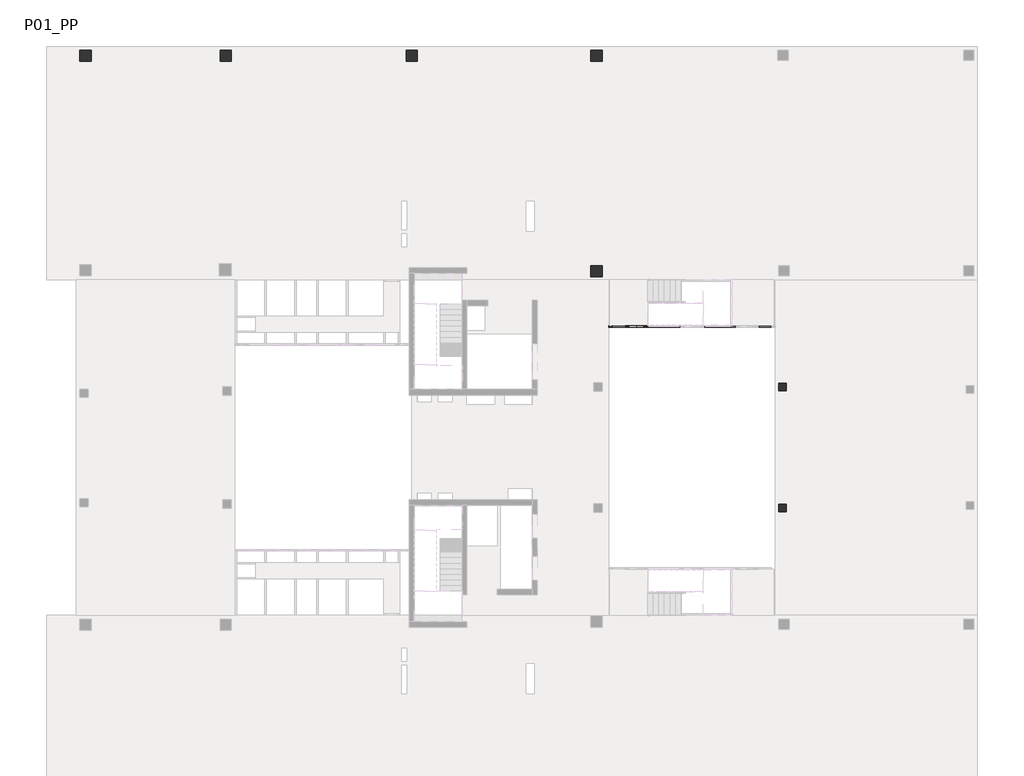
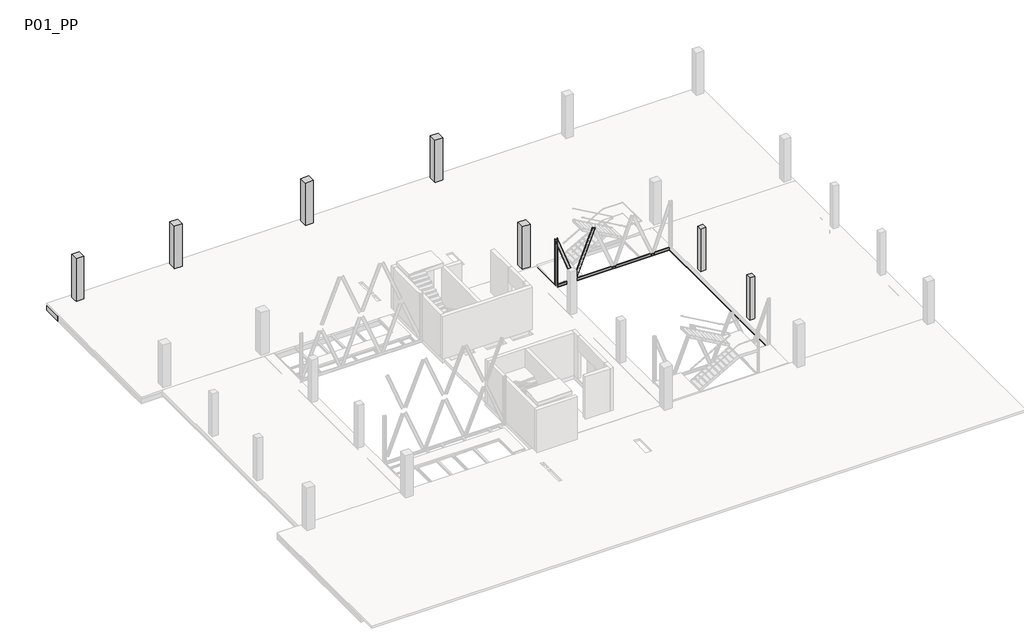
# One storey, part 5 of 8: 28 beams, 8 columns.
"""IFC4 building model written with IfcOpenShell, lengths in millimetres."""

from ifc_helpers import new_model, si_unit, frame, origin, place, context, project, spatial, polyline, circle_curve, ellipse_curve, outline, extrude, faceted_brep, transform, mapped, element, save
from ifc_brep_helpers import plane_surface, cylinder_surface, revolved_surface, advanced_brep
from components import ub_universal_beams_ipe_200x100_1ecb3d1d, ub_universal_beams_ipe_200x100_6905c83b, upn200x75_963e3bf5, upn200x75_de95b273, upn_200x75_fcc0ec56

model = new_model("IFC4")

# Units and contexts
model_context = context("Model", 3, world=origin())
ifc_project = project(units=[si_unit("LENGTHUNIT", "METRE", prefix="MILLI")], contexts=[model_context])

# Site, building, storey
site = spatial("IfcSite", under=ifc_project)
building = spatial("IfcBuilding", under=site)
storey = spatial("IfcBuildingStorey", under=building, Name="P01_PP", Elevation=11160.0)

# Beams
placement = place(None, origin())
element("IfcBeam", 1, ObjectType="M_Concrete-Rectangular Beam : 1500 x 550mm", at=placement, inside=storey, context=model_context, shape_type="AdvancedBrep", body=[
    advanced_brep(
    [(16958.7687297, 26089.4144807, 10610.0), (-33190.2931093, 26089.4144807, 10610.0), (-33190.2931093, 26089.4144807, 11010.0), (16958.7687297, 26089.4144807, 11010.0), (16958.7687297, 24589.4144807, 10610.0), (15458.7687297, 24589.4144807, 10610.0), (14183.7291255, 24589.4144807, 10610.0), (13783.7291255, 24589.4144807, 10610.0), (12517.0624618, 24589.4144807, 10610.0), (12117.0624618, 24589.4144807, 10610.0), (10850.3957976, 24589.4144807, 10610.0), (10450.3957976, 24589.4144807, 10610.0), (9183.7291339, 24589.4144807, 10610.0), (8783.7291339, 24589.4144807, 10610.0), (7517.0624701, 24589.4144807, 10610.0), (7117.0624701, 24589.4144807, 10610.0), (5850.3958055, 24589.4144807, 10610.0), (5450.3958055, 24589.4144807, 10610.0), (4183.7291418, 24589.4144807, 10610.0), (3783.7291418, 24589.4144807, 10610.0), (2517.0624776, 24589.4144807, 10610.0), (2117.0624776, 24589.4144807, 10610.0), (850.3958139, 24589.4144807, 10610.0), (450.3958139, 24589.4144807, 10610.0), (-816.2708502, 24589.4144807, 10610.0), (-1216.2708502, 24589.4144807, 10610.0), (-2482.9375136, 24589.4144807, 10610.0), (-2882.9375136, 24589.4144807, 10610.0), (-4149.6041777, 24589.4144807, 10610.0), (-4549.6041777, 24589.4144807, 10610.0), (-5816.2708415, 24589.4144807, 10610.0), (-6216.2708415, 24589.4144807, 10610.0), (-7482.9375051, 24589.4144807, 10610.0), (-7882.9375051, 24589.4144807, 10610.0), (-9149.6041702, 24589.4144807, 10610.0), (-9549.6041702, 24589.4144807, 10610.0), (-10816.2708336, 24589.4144807, 10610.0), (-11216.2708336, 24589.4144807, 10610.0), (-12482.9374977, 24589.4144807, 10610.0), (-12882.9374977, 24589.4144807, 10610.0), (-14149.604161, 24589.4144807, 10610.0), (-14549.604161, 24589.4144807, 10610.0), (-15816.2708252, 24589.4144807, 10610.0), (-16216.2708252, 24589.4144807, 10610.0), (-17482.9374898, 24589.4144807, 10610.0), (-17882.9374898, 24589.4144807, 10610.0), (-19149.6041539, 24589.4144807, 10610.0), (-19549.6041539, 24589.4144807, 10610.0), (-20816.2708168, 24589.4144807, 10610.0), (-21216.2708168, 24589.4144807, 10610.0), (-22482.9374805, 24589.4144807, 10610.0), (-22882.9374805, 24589.4144807, 10610.0), (-24149.6041453, 24589.4144807, 10610.0), (-24549.6041453, 24589.4144807, 10610.0), (-25816.2708089, 24589.4144807, 10610.0), (-26216.2708089, 24589.4144807, 10610.0), (-27482.9374731, 24589.4144807, 10610.0), (-27882.9374731, 24589.4144807, 10610.0), (-29149.6041367, 24589.4144807, 10610.0), (-29549.6041367, 24589.4144807, 10610.0), (-30816.2708024, 24589.4144807, 10610.0), (-31216.2708024, 24589.4144807, 10610.0), (-32490.2931093, 24589.4144807, 10610.0), (-33190.2931093, 24589.4144807, 10610.0), (-31391.1935443, 25889.4135722, 10610.0), (-31391.1935443, 25239.4135722, 10610.0), (-30741.1935443, 25239.4135722, 10610.0), (-30741.1935443, 25889.4135722, 10610.0), (-23891.1579551, 25889.4135995, 10610.0), (-23891.1579598, 25239.4135995, 10610.0), (-23241.1579598, 25239.4135948, 10610.0), (-23241.1579551, 25889.4135948, 10610.0), (-13840.3365029, 25889.4135969, 10610.0), (-13840.3365029, 25239.4135969, 10610.0), (-13190.3365029, 25239.4135969, 10610.0), (-13190.3365029, 25889.4135969, 10610.0), (-3916.6336913, 25889.4136866, 10610.0), (-3916.6336913, 25239.4136866, 10610.0), (-3266.6336913, 25239.4136866, 10610.0), (-3266.6336913, 25889.4136866, 10610.0), (6159.6816847, 25614.4137814, 10610.0), (6809.6816847, 25614.4137814, 10610.0), (16158.7686026, 25614.4137796, 10610.0), (16808.7686026, 25614.4137796, 10610.0), (16958.7687297, 24589.4144807, 11010.0), (15458.7687297, 24589.4144807, 11010.0), (14183.7291255, 24589.4144807, 11010.0), (13783.7291255, 24589.4144807, 11010.0), (12517.0624618, 24589.4144807, 11010.0), (12117.0624618, 24589.4144807, 11010.0), (10850.3957976, 24589.4144807, 11010.0), (10450.3957976, 24589.4144807, 11010.0), (9183.7291339, 24589.4144807, 11010.0), (8783.7291339, 24589.4144807, 11010.0), (7517.0624701, 24589.4144807, 11010.0), (7117.0624701, 24589.4144807, 11010.0), (5850.3958055, 24589.4144807, 11010.0), (5450.3958055, 24589.4144807, 11010.0), (4183.7291418, 24589.4144807, 11010.0), (3783.7291418, 24589.4144807, 11010.0), (2517.0624776, 24589.4144807, 11010.0), (2117.0624776, 24589.4144807, 11010.0), (850.3958139, 24589.4144807, 11010.0), (450.3958139, 24589.4144807, 11010.0), (-816.2708502, 24589.4144807, 11010.0), (-1216.2708502, 24589.4144807, 11010.0), (-2482.9375136, 24589.4144807, 11010.0), (-2882.9375136, 24589.4144807, 11010.0), (-4149.6041777, 24589.4144807, 11010.0), (-4549.6041777, 24589.4144807, 11010.0), (-5816.2708415, 24589.4144807, 11010.0), (-6216.2708415, 24589.4144807, 11010.0), (-7482.9375051, 24589.4144807, 11010.0), (-7882.9375051, 24589.4144807, 11010.0), (-9149.6041702, 24589.4144807, 11010.0), (-9549.6041702, 24589.4144807, 11010.0), (-10816.2708336, 24589.4144807, 11010.0), (-11216.2708336, 24589.4144807, 11010.0), (-12482.9374977, 24589.4144807, 11010.0), (-12882.9374977, 24589.4144807, 11010.0), (-14149.604161, 24589.4144807, 11010.0), (-14549.604161, 24589.4144807, 11010.0), (-15816.2708252, 24589.4144807, 11010.0), (-16216.2708252, 24589.4144807, 11010.0), (-17482.9374898, 24589.4144807, 11010.0), (-17882.9374898, 24589.4144807, 11010.0), (-19149.6041539, 24589.4144807, 11010.0), (-19549.6041539, 24589.4144807, 11010.0), (-20816.2708168, 24589.4144807, 11010.0), (-21216.2708168, 24589.4144807, 11010.0), (-22482.9374805, 24589.4144807, 11010.0), (-22882.9374805, 24589.4144807, 11010.0), (-24149.6041453, 24589.4144807, 11010.0), (-24549.6041453, 24589.4144807, 11010.0), (-25816.2708089, 24589.4144807, 11010.0), (-26216.2708089, 24589.4144807, 11010.0), (-27482.9374731, 24589.4144807, 11010.0), (-27882.9374731, 24589.4144807, 11010.0), (-29149.6041367, 24589.4144807, 11010.0), (-29549.6041367, 24589.4144807, 11010.0), (-30816.2708024, 24589.4144807, 11010.0), (-31216.2708024, 24589.4144807, 11010.0), (-32490.2931093, 24589.4144807, 11010.0), (-33190.2931093, 24589.4144807, 11010.0), (-31391.1935443, 25889.4135722, 10860.0), (-31391.1935443, 25239.4135722, 10860.0), (-30741.1935443, 25889.4135722, 10860.0), (-30741.1935443, 25239.4135722, 10860.0), (-23891.1579551, 25889.4135995, 10860.0), (-23891.1579598, 25239.4135995, 10860.0), (-23241.1579551, 25889.4135948, 10860.0), (-23241.1579598, 25239.4135948, 10860.0), (-13840.3365029, 25889.4135969, 10860.0), (-13840.3365029, 25239.4135969, 10860.0), (-13190.3365029, 25889.4135969, 10860.0), (-13190.3365029, 25239.4135969, 10860.0), (-3916.6336913, 25889.4136866, 10860.0), (-3916.6336913, 25239.4136866, 10860.0), (-3266.6336913, 25889.4136866, 10860.0), (-3266.6336913, 25239.4136866, 10860.0), (6159.6816847, 25614.4137814, 10860.0), (6809.6816847, 25614.4137814, 10860.0), (16158.7686026, 25614.4137796, 10860.0), (16808.7686026, 25614.4137796, 10860.0)],
    [
        (0, 1),
        (1, 2),
        (2, 3),
        (3, 0),
        (0, 4),
        (4, 5),
        (5, 6),
        (6, 7),
        (7, 8),
        (8, 9),
        (9, 10),
        (10, 11),
        (11, 12),
        (12, 13),
        (13, 14),
        (14, 15),
        (15, 16),
        (16, 17),
        (17, 18),
        (18, 19),
        (19, 20),
        (20, 21),
        (21, 22),
        (22, 23),
        (23, 24),
        (24, 25),
        (25, 26),
        (26, 27),
        (27, 28),
        (28, 29),
        (29, 30),
        (30, 31),
        (31, 32),
        (32, 33),
        (33, 34),
        (34, 35),
        (35, 36),
        (36, 37),
        (37, 38),
        (38, 39),
        (39, 40),
        (40, 41),
        (41, 42),
        (42, 43),
        (43, 44),
        (44, 45),
        (45, 46),
        (46, 47),
        (47, 48),
        (48, 49),
        (49, 50),
        (50, 51),
        (51, 52),
        (52, 53),
        (53, 54),
        (54, 55),
        (55, 56),
        (56, 57),
        (57, 58),
        (58, 59),
        (59, 60),
        (60, 61),
        (61, 62),
        (62, 63),
        (63, 1),
        (64, 65),
        (65, 66),
        (66, 67),
        (67, 64),
        (68, 69),
        (69, 70),
        (70, 71),
        (71, 68),
        (72, 73),
        (73, 74),
        (74, 75),
        (75, 72),
        (76, 77),
        (77, 78),
        (78, 79),
        (79, 76),
        (80, 81, circle_curve(frame((6484.6816847, 25614.4137814, 10610.0), z_axis=(0.0, 0.0, 1.0), x_axis=(-1.0, 0.0, 0.0)), 325.0)),
        (81, 80, circle_curve(frame((6484.6816847, 25614.4137814, 10610.0), z_axis=(0.0, 0.0, 1.0), x_axis=(-1.0, 0.0, 0.0)), 325.0)),
        (82, 83, circle_curve(frame((16483.7686026, 25614.4137796, 10610.0), z_axis=(0.0, 0.0, 1.0), x_axis=(-1.0, 0.0, 0.0)), 325.0)),
        (83, 82, circle_curve(frame((16483.7686026, 25614.4137796, 10610.0), z_axis=(0.0, 0.0, 1.0), x_axis=(-1.0, 0.0, 0.0)), 325.0)),
        (4, 84),
        (84, 85),
        (85, 86),
        (86, 87),
        (87, 88),
        (88, 89),
        (89, 90),
        (90, 91),
        (91, 92),
        (92, 93),
        (93, 94),
        (94, 95),
        (95, 96),
        (96, 97),
        (97, 98),
        (98, 99),
        (99, 100),
        (100, 101),
        (101, 102),
        (102, 103),
        (103, 104),
        (104, 105),
        (105, 106),
        (106, 107),
        (107, 108),
        (108, 109),
        (109, 110),
        (110, 111),
        (111, 112),
        (112, 113),
        (113, 114),
        (114, 115),
        (115, 116),
        (116, 117),
        (117, 118),
        (118, 119),
        (119, 120),
        (120, 121),
        (121, 122),
        (122, 123),
        (123, 124),
        (124, 125),
        (125, 126),
        (126, 127),
        (127, 128),
        (128, 129),
        (129, 130),
        (130, 131),
        (131, 132),
        (132, 133),
        (133, 134),
        (134, 135),
        (135, 136),
        (136, 137),
        (137, 138),
        (138, 139),
        (139, 140),
        (140, 141),
        (141, 142),
        (142, 143),
        (143, 63),
        (144, 145),
        (145, 65),
        (64, 144),
        (146, 144),
        (67, 146),
        (147, 146),
        (66, 147),
        (145, 147),
        (148, 149),
        (149, 69),
        (68, 148),
        (150, 148),
        (71, 150),
        (151, 150),
        (70, 151),
        (149, 151),
        (3, 84),
        (152, 153),
        (153, 73),
        (72, 152),
        (154, 152),
        (75, 154),
        (155, 154),
        (74, 155),
        (153, 155),
        (156, 157),
        (157, 77),
        (76, 156),
        (158, 156),
        (79, 158),
        (159, 158),
        (78, 159),
        (157, 159),
        (160, 161, circle_curve(frame((6484.6816847, 25614.4137814, 10860.0), z_axis=(0.0, 0.0, 1.0), x_axis=(-1.0, 0.0, 0.0)), 325.0)),
        (161, 81),
        (80, 160),
        (161, 160, circle_curve(frame((6484.6816847, 25614.4137814, 10860.0), z_axis=(0.0, 0.0, 1.0), x_axis=(-1.0, 0.0, 0.0)), 325.0)),
        (162, 163, circle_curve(frame((16483.7686026, 25614.4137796, 10860.0), z_axis=(0.0, 0.0, 1.0), x_axis=(-1.0, 0.0, 0.0)), 325.0)),
        (163, 83),
        (82, 162),
        (163, 162, circle_curve(frame((16483.7686026, 25614.4137796, 10860.0), z_axis=(0.0, 0.0, 1.0), x_axis=(-1.0, 0.0, 0.0)), 325.0)),
        (143, 2),
    ],
    [
        plane_surface(frame((-32477.5931093, 26089.4144807, 10885.0), z_axis=(0.0, 1.0, 0.0), x_axis=(0.0, 0.0, -1.0))),
        plane_surface(frame((-32477.5931093, 25339.4144807, 10610.0), z_axis=(0.0, 0.0, -1.0), x_axis=(0.0, -1.0, 0.0))),
        plane_surface(frame((-32477.5931093, 24589.4144807, 10885.0), z_axis=(0.0, -1.0, 0.0), x_axis=(0.0, 0.0, 1.0))),
        plane_surface(frame((-31391.1935443, 25889.4135722, 10860.0), z_axis=(1.0, -2.5511442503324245e-11, 0.0), x_axis=(0.0, 0.0, -1.0))),
        plane_surface(frame((-30741.1935443, 25889.4135722, 10860.0), z_axis=(-2.5511442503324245e-11, -1.0, 0.0), x_axis=(0.0, 0.0, -1.0))),
        plane_surface(frame((-30741.1935443, 25239.4135722, 10860.0), z_axis=(-1.0, 2.5511442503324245e-11, 0.0), x_axis=(0.0, 0.0, -1.0))),
        plane_surface(frame((-31391.1935443, 25239.4135722, 10860.0), z_axis=(2.5511442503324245e-11, 1.0, 0.0), x_axis=(0.0, 0.0, -1.0))),
        plane_surface(frame((-30741.1935443, 25239.4135722, 10860.0), z_axis=(0.0, 0.0, -1.0), x_axis=(1.0, -2.5511442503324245e-11, 0.0))),
        plane_surface(frame((-23891.1579551, 25889.4135995, 10860.0), z_axis=(1.0, -7.189467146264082e-09, 0.0), x_axis=(0.0, 0.0, -1.0))),
        plane_surface(frame((-23241.1579551, 25889.4135948, 10860.0), z_axis=(-7.189467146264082e-09, -1.0, 0.0), x_axis=(0.0, 0.0, -1.0))),
        plane_surface(frame((-23241.1579598, 25239.4135948, 10860.0), z_axis=(-1.0, 7.189467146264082e-09, 0.0), x_axis=(0.0, 0.0, -1.0))),
        plane_surface(frame((-23891.1579598, 25239.4135995, 10860.0), z_axis=(7.189467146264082e-09, 1.0, 0.0), x_axis=(0.0, 0.0, -1.0))),
        plane_surface(frame((-23241.1579598, 25239.4135948, 10860.0), z_axis=(0.0, 0.0, -1.0), x_axis=(1.0, -7.189467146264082e-09, 0.0))),
        plane_surface(frame((16958.7687297, 26113.3435642, 11160.0), z_axis=(1.0, 0.0, 0.0), x_axis=(0.0, -1.0, 0.0))),
        plane_surface(frame((-13840.3365029, 25889.4135969, 10860.0), z_axis=(1.0, 0.0, 0.0), x_axis=(0.0, 0.0, -1.0))),
        plane_surface(frame((-13190.3365029, 25889.4135969, 10860.0), z_axis=(0.0, -1.0, 0.0), x_axis=(0.0, 0.0, -1.0))),
        plane_surface(frame((-13190.3365029, 25239.4135969, 10860.0), z_axis=(-1.0, 0.0, 0.0), x_axis=(0.0, 0.0, -1.0))),
        plane_surface(frame((-13840.3365029, 25239.4135969, 10860.0), z_axis=(0.0, 1.0, 0.0), x_axis=(0.0, 0.0, -1.0))),
        plane_surface(frame((-13190.3365029, 25239.4135969, 10860.0), z_axis=(0.0, 0.0, -1.0), x_axis=(1.0, 0.0, 0.0))),
        plane_surface(frame((-3916.6336913, 25889.4136866, 10860.0), z_axis=(1.0, 0.0, 0.0), x_axis=(0.0, 0.0, -1.0))),
        plane_surface(frame((-3266.6336913, 25889.4136866, 10860.0), z_axis=(0.0, -1.0, 0.0), x_axis=(0.0, 0.0, -1.0))),
        plane_surface(frame((-3266.6336913, 25239.4136866, 10860.0), z_axis=(-1.0, 0.0, 0.0), x_axis=(0.0, 0.0, -1.0))),
        plane_surface(frame((-3916.6336913, 25239.4136866, 10860.0), z_axis=(0.0, 1.0, 0.0), x_axis=(0.0, 0.0, -1.0))),
        plane_surface(frame((-3266.6336913, 25239.4136866, 10860.0), z_axis=(0.0, 0.0, -1.0), x_axis=(1.0, 0.0, 0.0))),
        revolved_surface(polyline([(6159.6816847, 25614.4137814, 10860.0), (6159.6816847, 25614.4137814, 10610.0)]), (6484.6816847, 25614.4137814, 7100.0), (0.0, 0.0, 1.0)),
        plane_surface(frame((6159.6816847, 25614.4137814, 10860.0), z_axis=(0.0, 0.0, -1.0), x_axis=(0.0, -1.0, 0.0))),
        revolved_surface(polyline([(16158.768602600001, 25614.4137796, 10860.0), (16158.768602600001, 25614.4137796, 10610.0)]), (16483.7686026, 25614.4137796, 5480.0), (0.0, 0.0, 1.0)),
        plane_surface(frame((16158.7686026, 25614.4137796, 10860.0), z_axis=(0.0, 0.0, -1.0), x_axis=(0.0, -1.0, 0.0))),
        plane_surface(frame((-33190.2931093, 26113.3435642, 10610.0), z_axis=(-1.0, 0.0, 0.0), x_axis=(0.0, -1.0, 0.0))),
        plane_surface(frame((-33190.2931093, -4560.5861796, 11010.0), z_axis=(0.0, 0.0, 1.0), x_axis=(0.0, 1.0, 0.0))),
    ],
    [
        (0, [[1, 2, 3, 4]]),
        (1, [[5, 6, 7, 8, 9, 10, 11, 12, 13, 14, 15, 16, 17, 18, 19, 20, 21, 22, 23, 24, 25, 26, 27, 28, 29, 30, 31, 32, 33, 34, 35, 36, 37, 38, 39, 40, 41, 42, 43, 44, 45, 46, 47, 48, 49, 50, 51, 52, 53, 54, 55, 56, 57, 58, 59, 60, 61, 62, 63, 64, 65, -1], [66, 67, 68, 69], [70, 71, 72, 73], [74, 75, 76, 77], [78, 79, 80, 81], [82, 83], [84, 85]]),
        (2, [[-64, -63, -62, -61, -60, -59, -58, -57, -56, -55, -54, -53, -52, -51, -50, -49, -48, -47, -46, -45, -44, -43, -42, -41, -40, -39, -38, -37, -36, -35, -34, -33, -32, -31, -30, -29, -28, -27, -26, -25, -24, -23, -22, -21, -20, -19, -18, -17, -16, -15, -14, -13, -12, -11, -10, -9, -8, -7, -6, 86, 87, 88, 89, 90, 91, 92, 93, 94, 95, 96, 97, 98, 99, 100, 101, 102, 103, 104, 105, 106, 107, 108, 109, 110, 111, 112, 113, 114, 115, 116, 117, 118, 119, 120, 121, 122, 123, 124, 125, 126, 127, 128, 129, 130, 131, 132, 133, 134, 135, 136, 137, 138, 139, 140, 141, 142, 143, 144, 145, 146]]),
        (3, [[147, 148, -66, 149]]),
        (4, [[150, -149, -69, 151]]),
        (5, [[152, -151, -68, 153]]),
        (6, [[154, -153, -67, -148]]),
        (7, [[-147, -150, -152, -154]]),
        (8, [[155, 156, -70, 157]]),
        (9, [[158, -157, -73, 159]]),
        (10, [[160, -159, -72, 161]]),
        (11, [[162, -161, -71, -156]]),
        (12, [[-155, -158, -160, -162]]),
        (13, [[-5, -4, 163, -86]]),
        (14, [[164, 165, -74, 166]]),
        (15, [[167, -166, -77, 168]]),
        (16, [[169, -168, -76, 170]]),
        (17, [[171, -170, -75, -165]]),
        (18, [[-164, -167, -169, -171]]),
        (19, [[172, 173, -78, 174]]),
        (20, [[175, -174, -81, 176]]),
        (21, [[177, -176, -80, 178]]),
        (22, [[179, -178, -79, -173]]),
        (23, [[-172, -175, -177, -179]]),
        (24, [[180, 181, -82, 182]]),
        (24, [[183, -182, -83, -181]]),
        (25, [[-180, -183]]),
        (26, [[184, 185, -84, 186]]),
        (26, [[187, -186, -85, -185]]),
        (27, [[-184, -187]]),
        (28, [[-65, -146, 188, -2]]),
        (29, [[-3, -188, -145, -144, -143, -142, -141, -140, -139, -138, -137, -136, -135, -134, -133, -132, -131, -130, -129, -128, -127, -126, -125, -124, -123, -122, -121, -120, -119, -118, -117, -116, -115, -114, -113, -112, -111, -110, -109, -108, -107, -106, -105, -104, -103, -102, -101, -100, -99, -98, -97, -96, -95, -94, -93, -92, -91, -90, -89, -88, -87, -163]]),
    ],
),
])
element("IfcBeam", 2, ObjectType="M_Concrete-Rectangular Beam : 400 x 550mm", at=placement, inside=storey, context=model_context, shape_type="SweptSolid", body=[
    extrude(outline(polyline([(-31216.2708024, 24589.4144807), (-30816.2708024, 24589.4144807), (-30816.2708024, 15039.4134441), (-31216.2708024, 15039.4134441), (-31216.2708024, 24589.4144807)])), frame((0.0, 0.0, 10610.0), z_axis=(0.0, 0.0, 1.0), x_axis=(1.0, 0.0, 0.0)), (0.0, 0.0, 1.0), 400.0),
])
element("IfcBeam", 3, ObjectType="M_Concrete-Rectangular Beam : 400 x 550mm", at=placement, inside=storey, context=model_context, shape_type="SweptSolid", body=[
    extrude(outline(polyline([(-29549.6041367, 24589.4144807), (-29149.6041367, 24589.4144807), (-29149.6041367, 15039.4134441), (-29549.6041367, 15039.4134441), (-29549.6041367, 24589.4144807)])), frame((0.0, 0.0, 10610.0), z_axis=(0.0, 0.0, 1.0), x_axis=(1.0, 0.0, 0.0)), (0.0, 0.0, 1.0), 400.0),
])
element("IfcBeam", 4, ObjectType="M_Concrete-Rectangular Beam : 400 x 550mm", at=placement, inside=storey, context=model_context, shape_type="SweptSolid", body=[
    extrude(outline(polyline([(-27882.9374731, 24589.4144807), (-27482.9374731, 24589.4144807), (-27482.9374731, 15039.4134441), (-27882.9374731, 15039.4134441), (-27882.9374731, 24589.4144807)])), frame((0.0, 0.0, 10610.0), z_axis=(0.0, 0.0, 1.0), x_axis=(1.0, 0.0, 0.0)), (0.0, 0.0, 1.0), 400.0),
])
element("IfcBeam", 5, ObjectType="M_Concrete-Rectangular Beam : 400 x 550mm", at=placement, inside=storey, context=model_context, shape_type="SweptSolid", body=[
    extrude(outline(polyline([(-26216.2708089, 24589.4144807), (-25816.2708089, 24589.4144807), (-25816.2708089, 15039.4134441), (-26216.2708089, 15039.4134441), (-26216.2708089, 24589.4144807)])), frame((0.0, 0.0, 10610.0), z_axis=(0.0, 0.0, 1.0), x_axis=(1.0, 0.0, 0.0)), (0.0, 0.0, 1.0), 400.0),
])
element("IfcBeam", 6, ObjectType="M_Concrete-Rectangular Beam : 400 x 550mm", at=placement, inside=storey, context=model_context, shape_type="SweptSolid", body=[
    extrude(outline(polyline([(-24549.6041453, 24589.4144807), (-24149.6041453, 24589.4144807), (-24149.6041453, 15039.4134441), (-24549.6041453, 15039.4134441), (-24549.6041453, 24589.4144807)])), frame((0.0, 0.0, 10610.0), z_axis=(0.0, 0.0, 1.0), x_axis=(1.0, 0.0, 0.0)), (0.0, 0.0, 1.0), 400.0),
])
element("IfcBeam", 7, ObjectType="M_Concrete-Rectangular Beam : 400 x 550mm", at=placement, inside=storey, context=model_context, shape_type="SweptSolid", body=[
    extrude(outline(polyline([(-22882.9374805, 24589.4144807), (-22482.9374805, 24589.4144807), (-22482.9374805, 15039.4134441), (-22882.9374805, 15039.4134441), (-22882.9374805, 24589.4144807)])), frame((0.0, 0.0, 10610.0), z_axis=(0.0, 0.0, 1.0), x_axis=(1.0, 0.0, 0.0)), (0.0, 0.0, 1.0), 400.0),
])
element("IfcBeam", 8, ObjectType="M_Concrete-Rectangular Beam : 400 x 550mm", at=placement, inside=storey, context=model_context, shape_type="SweptSolid", body=[
    extrude(outline(polyline([(-21216.2708168, 24589.4144807), (-20816.2708168, 24589.4144807), (-20816.2708168, 15039.4134441), (-21216.2708168, 15039.4134441), (-21216.2708168, 24589.4144807)])), frame((0.0, 0.0, 10610.0), z_axis=(0.0, 0.0, 1.0), x_axis=(1.0, 0.0, 0.0)), (0.0, 0.0, 1.0), 400.0),
])
element("IfcBeam", 9, ObjectType="M_Concrete-Rectangular Beam : 400 x 550mm", at=placement, inside=storey, context=model_context, shape_type="SweptSolid", body=[
    extrude(outline(polyline([(-19549.6041539, 24589.4144807), (-19149.6041539, 24589.4144807), (-19149.6041539, 15039.4134441), (-19549.6041539, 15039.4134441), (-19549.6041539, 24589.4144807)])), frame((0.0, 0.0, 10610.0), z_axis=(0.0, 0.0, 1.0), x_axis=(1.0, 0.0, 0.0)), (0.0, 0.0, 1.0), 400.0),
])
element("IfcBeam", 10, ObjectType="M_Concrete-Rectangular Beam : 400 x 550mm", at=placement, inside=storey, context=model_context, shape_type="SweptSolid", body=[
    extrude(outline(polyline([(-17882.9374898, 24589.4144807), (-17482.9374898, 24589.4144807), (-17482.9374898, 15039.4134441), (-17882.9374898, 15039.4134441), (-17882.9374898, 24589.4144807)])), frame((0.0, 0.0, 10610.0), z_axis=(0.0, 0.0, 1.0), x_axis=(1.0, 0.0, 0.0)), (0.0, 0.0, 1.0), 400.0),
])
element("IfcBeam", 11, ObjectType="M_Concrete-Rectangular Beam : 400 x 550mm", at=placement, inside=storey, context=model_context, shape_type="SweptSolid", body=[
    extrude(outline(polyline([(-16216.2708252, 24589.4144807), (-15816.2708252, 24589.4144807), (-15816.2708252, 15039.4134441), (-16216.2708252, 15039.4134441), (-16216.2708252, 24589.4144807)])), frame((0.0, 0.0, 10610.0), z_axis=(0.0, 0.0, 1.0), x_axis=(1.0, 0.0, 0.0)), (0.0, 0.0, 1.0), 400.0),
])
element("IfcBeam", 12, ObjectType="M_Concrete-Rectangular Beam : 400 x 550mm", at=placement, inside=storey, context=model_context, shape_type="SweptSolid", body=[
    extrude(outline(polyline([(-14549.604161, 24589.4144807), (-14149.604161, 24589.4144807), (-14149.604161, 15039.4134441), (-14549.604161, 15039.4134441), (-14549.604161, 24589.4144807)])), frame((0.0, 0.0, 10610.0), z_axis=(0.0, 0.0, 1.0), x_axis=(1.0, 0.0, 0.0)), (0.0, 0.0, 1.0), 400.0),
])
element("IfcBeam", 13, ObjectType="M_Concrete-Rectangular Beam : 400 x 550mm", at=placement, inside=storey, context=model_context, shape_type="SweptSolid", body=[
    extrude(outline(polyline([(-12882.9374977, 24589.4144807), (-12482.9374977, 24589.4144807), (-12482.9374977, 15039.4134441), (-12882.9374977, 15039.4134441), (-12882.9374977, 24589.4144807)])), frame((0.0, 0.0, 10610.0), z_axis=(0.0, 0.0, 1.0), x_axis=(1.0, 0.0, 0.0)), (0.0, 0.0, 1.0), 400.0),
])
element("IfcBeam", 14, ObjectType="M_Concrete-Rectangular Beam : 400 x 550mm", at=placement, inside=storey, context=model_context, shape_type="SweptSolid", body=[
    extrude(outline(polyline([(-11216.2708336, 24589.4144807), (-10816.2708336, 24589.4144807), (-10816.2708336, 15039.4134441), (-11216.2708336, 15039.4134441), (-11216.2708336, 24589.4144807)])), frame((0.0, 0.0, 10610.0), z_axis=(0.0, 0.0, 1.0), x_axis=(1.0, 0.0, 0.0)), (0.0, 0.0, 1.0), 400.0),
])
element("IfcBeam", 15, ObjectType="M_Concrete-Rectangular Beam : 400 x 550mm", at=placement, inside=storey, context=model_context, shape_type="SweptSolid", body=[
    extrude(outline(polyline([(-9549.6041702, 24589.4144807), (-9149.6041702, 24589.4144807), (-9149.6041702, 15039.4134441), (-9549.6041702, 15039.4134441), (-9549.6041702, 24589.4144807)])), frame((0.0, 0.0, 10610.0), z_axis=(0.0, 0.0, 1.0), x_axis=(1.0, 0.0, 0.0)), (0.0, 0.0, 1.0), 400.0),
])
element("IfcBeam", 16, ObjectType="M_Concrete-Rectangular Beam : 400 x 550mm", at=placement, inside=storey, context=model_context, shape_type="SweptSolid", body=[
    extrude(outline(polyline([(-7882.9375051, 24589.4144807), (-7482.9375051, 24589.4144807), (-7482.9375051, 15039.4134441), (-7882.9375051, 15039.4134441), (-7882.9375051, 24589.4144807)])), frame((0.0, 0.0, 10610.0), z_axis=(0.0, 0.0, 1.0), x_axis=(1.0, 0.0, 0.0)), (0.0, 0.0, 1.0), 400.0),
])
element("IfcBeam", 17, ObjectType="M_Concrete-Rectangular Beam : 400 x 550mm", at=placement, inside=storey, context=model_context, shape_type="SweptSolid", body=[
    extrude(outline(polyline([(-6216.2708415, 24589.4144807), (-5816.2708415, 24589.4144807), (-5816.2708415, 15039.4134441), (-6216.2708415, 15039.4134441), (-6216.2708415, 24589.4144807)])), frame((0.0, 0.0, 10610.0), z_axis=(0.0, 0.0, 1.0), x_axis=(1.0, 0.0, 0.0)), (0.0, 0.0, 1.0), 400.0),
])
element("IfcBeam", 18, ObjectType="M_Concrete-Rectangular Beam : 400 x 550mm", at=placement, inside=storey, context=model_context, shape_type="SweptSolid", body=[
    extrude(outline(polyline([(-4549.6041777, 24589.4144807), (-4149.6041777, 24589.4144807), (-4149.6041777, 15039.4134441), (-4549.6041777, 15039.4134441), (-4549.6041777, 24589.4144807)])), frame((0.0, 0.0, 10610.0), z_axis=(0.0, 0.0, 1.0), x_axis=(1.0, 0.0, 0.0)), (0.0, 0.0, 1.0), 400.0),
])
element("IfcBeam", 19, ObjectType="M_Concrete-Rectangular Beam : 400 x 550mm", at=placement, inside=storey, context=model_context, shape_type="SweptSolid", body=[
    extrude(outline(polyline([(-2882.9375136, 24589.4144807), (-2482.9375136, 24589.4144807), (-2482.9375136, 15039.4134441), (-2882.9375136, 15039.4134441), (-2882.9375136, 24589.4144807)])), frame((0.0, 0.0, 10610.0), z_axis=(0.0, 0.0, 1.0), x_axis=(1.0, 0.0, 0.0)), (0.0, 0.0, 1.0), 400.0),
])
element("IfcBeam", 20, ObjectType="M_Concrete-Rectangular Beam : 400 x 550mm", at=placement, inside=storey, context=model_context, shape_type="SweptSolid", body=[
    extrude(outline(polyline([(-1216.2708502, 24589.4144807), (-816.2708502, 24589.4144807), (-816.2708502, 15039.4134441), (-1216.2708502, 15039.4134441), (-1216.2708502, 24589.4144807)])), frame((0.0, 0.0, 10610.0), z_axis=(0.0, 0.0, 1.0), x_axis=(1.0, 0.0, 0.0)), (0.0, 0.0, 1.0), 400.0),
])
element("IfcBeam", 21, ObjectType="M_Concrete-Rectangular Beam : 700 x 500mm", at=placement, inside=storey, context=model_context, shape_type="AdvancedBrep", body=[
    advanced_brep(
    [(6758.8308521, 13539.4134441, 11160.0), (6058.8308521, 13539.4134441, 11160.0), (6058.8308521, -4560.5861501, 11160.0), (6758.8308521, -4560.5861501, 11160.0), (6058.8308521, 13539.4134441, 11010.0), (6058.8308521, 13539.4134441, 10660.0), (6058.8308521, -4560.5861501, 10660.0), (6058.8308521, -4560.5861501, 11010.0), (6758.8308521, 13539.4134441, 10660.0), (6758.8308521, 1239.3381298, 10660.0), (6705.9167909, 1409.5566812, 10660.0), (6211.7449325, 1069.2712505, 10660.0), (6758.8308521, -4560.5861501, 10660.0), (6758.8308521, -4560.5861501, 11010.0), (6758.8308521, 13539.4134441, 11010.0), (6705.9167909, 1409.5566812, 10860.0), (6211.7449325, 1069.2712505, 10860.0)],
    [
        (0, 1),
        (1, 2),
        (2, 3),
        (3, 0),
        (1, 4),
        (4, 5),
        (5, 6),
        (6, 7),
        (7, 2),
        (5, 8),
        (8, 9),
        (9, 10, circle_curve(frame((6458.8308617, 1239.4139658, 10660.0), z_axis=(0.0, 0.0, 1.0), x_axis=(0.8236197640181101, 0.5671423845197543, 0.0)), 300.0)),
        (10, 11, circle_curve(frame((6458.8308617, 1239.4139658, 10660.0), z_axis=(0.0, 0.0, 1.0), x_axis=(0.8236197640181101, 0.5671423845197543, 0.0)), 300.0)),
        (11, 9, circle_curve(frame((6458.8308617, 1239.4139658, 10660.0), z_axis=(0.0, 0.0, 1.0), x_axis=(0.8236197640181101, 0.5671423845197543, 0.0)), 300.0)),
        (9, 12),
        (12, 6),
        (3, 13),
        (13, 12),
        (8, 14),
        (14, 0),
        (15, 16, circle_curve(frame((6458.8308617, 1239.4139658, 10860.0), z_axis=(0.0, 0.0, 1.0), x_axis=(0.8236197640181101, 0.5671423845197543, 0.0)), 300.0)),
        (16, 11),
        (10, 15),
        (16, 15, circle_curve(frame((6458.8308617, 1239.4139658, 10860.0), z_axis=(0.0, 0.0, 1.0), x_axis=(0.8236197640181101, 0.5671423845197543, 0.0)), 300.0)),
    ],
    [
        plane_surface(frame((6758.8308521, -4547.8861498, 11160.0), z_axis=(0.0, 0.0, 1.0), x_axis=(0.0, 1.0, 0.0))),
        plane_surface(frame((6058.8308521, -4547.8861498, 11160.0), z_axis=(-1.0, 0.0, 0.0), x_axis=(0.0, 1.0, 0.0))),
        plane_surface(frame((6058.8308521, -4547.8861498, 10660.0), z_axis=(0.0, 0.0, -1.0), x_axis=(0.0, 1.0, 0.0))),
        plane_surface(frame((6758.8308521, -4547.8861498, 10660.0), z_axis=(1.0, 0.0, 0.0), x_axis=(0.0, 1.0, 0.0))),
        plane_surface(frame((-32477.5931093, 13539.4134441, 10885.0), z_axis=(0.0, 1.0, 0.0), x_axis=(0.0, 0.0, 1.0))),
        plane_surface(frame((-32477.5931093, -4560.5861501, 10885.0), z_axis=(0.0, -1.0, 0.0), x_axis=(0.0, 0.0, 1.0))),
        revolved_surface(polyline([(6705.916790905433, 1409.5566811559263, 10860.0), (6705.916790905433, 1409.5566811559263, 10660.0)]), (6458.8308617, 1239.4139658, 7100.0), (0.0, 0.0, 1.0)),
        plane_surface(frame((6705.9167909, 1409.5566812, 10860.0), z_axis=(0.0, 0.0, -1.0000000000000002), x_axis=(-0.5671423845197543, 0.8236197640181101, 0.0))),
    ],
    [
        (0, [[1, 2, 3, 4]]),
        (1, [[-2, 5, 6, 7, 8, 9]]),
        (2, [[10, 11, 12, 13, 14, 15, 16, -7]]),
        (3, [[-4, 17, 18, -15, -11, 19, 20]]),
        (4, [[-1, -20, -19, -10, -6, -5]]),
        (5, [[-3, -9, -8, -16, -18, -17]]),
        (6, [[21, 22, -13, 23]]),
        (6, [[24, -23, -12, -14, -22]]),
        (7, [[-21, -24]]),
    ],
),
])
ub_universal_beams_ipe_200x100_shape = ub_universal_beams_ipe_200x100_1ecb3d1d(model_context)
element("IfcBeam", 22, ObjectType="UB-Universal Beams : IPE 200x100", at=placement, inside=storey, context=model_context, shape_type="MappedRepresentation", body=[
    mapped(ub_universal_beams_ipe_200x100_shape, transform((-2811.4958562, 12672.0188251, 11060.0), x_axis=(0.0, -1.0, 0.0), y_axis=(1.0, 0.0, 0.0), z_axis=(0.0, 0.0, 1.0))),
])
ub_universal_beams_ipe_200x100_2_shape = ub_universal_beams_ipe_200x100_6905c83b(model_context)
element("IfcBeam", 23, ObjectType="UB-Universal Beams : IPE 200x100", at=placement, inside=storey, context=model_context, shape_type="MappedRepresentation", body=[
    mapped(ub_universal_beams_ipe_200x100_2_shape, transform((-861.4958562, 12677.4822857, 11060.0), x_axis=(0.0, -1.0, 0.0), y_axis=(1.0, 0.0, 0.0), z_axis=(0.0, 0.0, 1.0))),
])
element("IfcBeam", 24, ObjectType="UB-Universal Beams : IPE 200x100", at=placement, inside=storey, context=model_context, shape_type="MappedRepresentation", body=[
    mapped(ub_universal_beams_ipe_200x100_2_shape, transform((-1511.4958562, 12677.4822857, 11060.0), x_axis=(0.0, -1.0, 0.0), y_axis=(1.0, 0.0, 0.0), z_axis=(0.0, 0.0, 1.0))),
])
element("IfcBeam", 25, ObjectType="UB-Universal Beams : IPE 200x100", at=placement, inside=storey, context=model_context, shape_type="MappedRepresentation", body=[
    mapped(ub_universal_beams_ipe_200x100_2_shape, transform((-2161.4958562, 12677.4822857, 11060.0), x_axis=(0.0, -1.0, 0.0), y_axis=(1.0, 0.0, 0.0), z_axis=(0.0, 0.0, 1.0))),
])
element("IfcBeam", 26, ObjectType="M_MC Shapes : UPN200x75", at=placement, inside=storey, context=model_context, shape_type="AdvancedBrep", body=[
    advanced_brep(
    [(-2858.8997749, 10979.623967, 14677.023118), (-2671.2434518, 10979.6239606, 14746.197567), (-2671.2434492, 11054.6239606, 14746.197567), (-2672.1579691, 11054.6239606, 14745.8604539), (-2675.8137544, 11051.323338, 14744.5128471), (-2685.2823086, 10990.7752065, 14741.0225204), (-2692.5938791, 10984.1739613, 14738.327307), (-2837.5493473, 10984.1739663, 14684.8933781), (-2844.8609174, 10990.775212, 14682.1981646), (-2854.3294674, 11051.3233441, 14678.7078379), (-2857.9852525, 11054.623967, 14677.3602312), (-2858.8997724, 11054.623967, 14677.023118), (-1312.3121379, 10979.623914, 11059.6910949), (-1527.1751909, 10979.6239214, 11064.3230146), (-1312.3121353, 11054.623914, 11059.6910948), (-1313.3592439, 11054.6239141, 11059.7136679), (-1317.545051, 11051.3232915, 11059.8039036), (-1328.3863719, 10990.7751601, 11060.0376159), (-1336.7579862, 10984.1739149, 11060.2180873), (-1502.7293423, 10984.1739206, 11063.7960222), (-1511.1009562, 10990.7751663, 11063.9764936), (-1521.9422728, 11051.3232985, 11064.2102058), (-1526.1280798, 11054.6239214, 11064.3004415), (-1527.1751883, 11054.6239214, 11064.3230146)],
    [
        (0, 1),
        (1, 2),
        (2, 3),
        (3, 4, circle_curve(frame((-2672.1579692, 11050.6739606, 14745.8604539), z_axis=(-0.3458722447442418, 1.1846647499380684e-08, 0.9382816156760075), x_axis=(3.4251509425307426e-08, 0.9999999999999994, 0.0)), 3.95)),
        (4, 5),
        (5, 6, circle_curve(frame((-2692.5938789, 10992.0739613, 14738.327307), z_axis=(0.3458722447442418, -1.1846647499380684e-08, -0.9382816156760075), x_axis=(3.4251509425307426e-08, 0.9999999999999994, 0.0)), 7.9)),
        (6, 7),
        (7, 8, circle_curve(frame((-2837.549347, 10992.0739663, 14684.8933781), z_axis=(0.3458722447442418, -1.1846647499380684e-08, -0.9382816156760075), x_axis=(3.4251509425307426e-08, 0.9999999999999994, 0.0)), 7.9)),
        (8, 9),
        (9, 10, circle_curve(frame((-2857.9852526, 11050.673967, 14677.3602312), z_axis=(-0.3458722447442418, 1.1846647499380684e-08, 0.9382816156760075), x_axis=(3.4251509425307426e-08, 0.9999999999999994, 0.0)), 3.95)),
        (10, 11),
        (11, 0),
        (12, 1),
        (0, 13),
        (13, 12),
        (14, 2),
        (12, 14),
        (15, 3),
        (14, 15),
        (16, 4),
        (15, 16, ellipse_curve(frame((-1313.359244, 11050.6739141, 11059.7136679), z_axis=(0.02155253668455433, 7.187507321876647e-12, 0.9997677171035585), x_axis=(0.999767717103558, -3.2348354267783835e-08, -0.021552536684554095)), 4.2445312, 3.95)),
        (16, 17),
        (17, 5),
        (18, 6),
        (17, 18, ellipse_curve(frame((-1336.7579859, 10992.0739149, 11060.2180873), z_axis=(-0.02155253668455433, -7.187507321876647e-12, -0.9997677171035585), x_axis=(-0.999767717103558, 3.2348354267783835e-08, 0.021552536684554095)), 8.4890625, 7.9)),
        (19, 7),
        (18, 19),
        (20, 8),
        (19, 20, ellipse_curve(frame((-1502.729342, 10992.0739206, 11063.7960222), z_axis=(-0.02155253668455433, -7.187507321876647e-12, -0.9997677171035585), x_axis=(-0.999767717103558, 3.2348354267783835e-08, 0.021552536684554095)), 8.4890625, 7.9)),
        (20, 21),
        (21, 9),
        (22, 10),
        (21, 22, ellipse_curve(frame((-1526.1280799, 11050.6739214, 11064.3004415), z_axis=(0.02155253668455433, 7.187507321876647e-12, 0.9997677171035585), x_axis=(0.999767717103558, -3.2348354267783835e-08, -0.021552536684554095)), 4.2445312, 3.95)),
        (23, 11),
        (22, 23),
        (23, 13),
    ],
    [
        plane_surface(frame((-2765.071613, 10990.5239638, 14711.6103425), z_axis=(-0.34587224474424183, 1.1846647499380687e-08, 0.9382816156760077), x_axis=(-0.9382816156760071, 3.213756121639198e-08, -0.345872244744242))),
        plane_surface(frame((-1512.9033473, 10979.6239209, 11025.6063825), z_axis=(-3.425150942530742e-08, -0.9999999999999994, 0.0), x_axis=(-0.3458722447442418, 1.1846647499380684e-08, 0.9382816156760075))),
        plane_surface(frame((-1325.2470241, 10979.6239145, 11094.7808314), z_axis=(0.938281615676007, -3.213756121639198e-08, 0.345872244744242), x_axis=(-0.3458722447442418, 1.1846647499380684e-08, 0.9382816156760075))),
        plane_surface(frame((-1325.2470216, 11054.6239145, 11094.7808314), z_axis=(3.425150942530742e-08, 0.9999999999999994, 0.0), x_axis=(-0.3458722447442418, 1.1846647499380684e-08, 0.9382816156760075))),
        cylinder_surface(frame((-1326.1615416, 11050.6739145, 11094.4437183), z_axis=(0.3458722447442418, -1.1846647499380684e-08, -0.9382816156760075), x_axis=(3.4251509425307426e-08, 0.9999999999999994, 0.0)), 3.95),
        plane_surface(frame((-1332.6594471, 11033.1489147, 11092.0484407), z_axis=(-0.9255152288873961, 0.16439933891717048, -0.34116626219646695), x_axis=(-0.3458722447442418, 1.1846647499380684e-08, 0.9382816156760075))),
        revolved_surface(polyline([(-2692.5938785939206, 10999.973961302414, 14738.327307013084), (-1335.6833198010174, 10999.973914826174, 11057.302735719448)]), (-1346.5974512, 10992.0739152, 11086.9105714), (-0.3458722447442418, 1.1846647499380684e-08, 0.9382816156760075)),
        plane_surface(frame((-1346.5974515, 10984.1739152, 11086.9105714), z_axis=(3.425150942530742e-08, 0.9999999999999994, 0.0), x_axis=(-0.3458722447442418, 1.1846647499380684e-08, 0.9382816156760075))),
        revolved_surface(polyline([(-2837.5493466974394, 10999.973966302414, 14684.893378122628), (-1501.6546758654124, 10999.973920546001, 11060.880670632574)]), (-1491.5529193, 10992.0739202, 11033.4766425), (-0.3458722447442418, 1.1846647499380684e-08, 0.9382816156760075)),
        plane_surface(frame((-1505.4909207, 11033.1489207, 11028.3387732), z_axis=(0.9255152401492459, 0.16439927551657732, 0.34116626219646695), x_axis=(-0.3458722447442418, 1.1846647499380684e-08, 0.9382816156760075))),
        cylinder_surface(frame((-1511.988825, 11050.6739209, 11025.9434956), z_axis=(0.3458722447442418, -1.1846647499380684e-08, -0.9382816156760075), x_axis=(3.4251509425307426e-08, 0.9999999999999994, 0.0)), 3.95),
        plane_surface(frame((-1511.9888248, 11054.6239209, 11025.9434956), z_axis=(3.425150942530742e-08, 0.9999999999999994, 0.0), x_axis=(-0.3458722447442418, 1.1846647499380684e-08, 0.9382816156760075))),
        plane_surface(frame((-1512.9033447, 11054.6239209, 11025.6063825), z_axis=(-0.938281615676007, 3.213756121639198e-08, -0.345872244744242), x_axis=(-0.3458722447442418, 1.1846647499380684e-08, 0.9382816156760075))),
        plane_surface(frame((-1527.1751904, 10990.5239214, 11064.3230146), z_axis=(-0.02155253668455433, -7.187507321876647e-12, -0.9997677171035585), x_axis=(0.9997677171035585, 0.0, -0.02155253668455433))),
    ],
    [
        (0, [[1, 2, 3, 4, 5, 6, 7, 8, 9, 10, 11, 12]]),
        (1, [[13, -1, 14, 15]]),
        (2, [[16, -2, -13, 17]]),
        (3, [[18, -3, -16, 19]]),
        (4, [[20, -4, -18, 21]]),
        (5, [[22, 23, -5, -20]]),
        (6, [[24, -6, -23, 25]]),
        (7, [[26, -7, -24, 27]]),
        (8, [[28, -8, -26, 29]]),
        (9, [[30, 31, -9, -28]]),
        (10, [[32, -10, -31, 33]]),
        (11, [[34, -11, -32, 35]]),
        (12, [[-14, -12, -34, 36]]),
        (13, [[-36, -35, -33, -30, -29, -27, -25, -22, -21, -19, -17, -15]]),
    ],
),
])
upn200x75_shape = upn200x75_963e3bf5(model_context)
element("IfcBeam", 27, ObjectType="M_MC Shapes : UPN200x75", at=placement, inside=storey, context=model_context, shape_type="MappedRepresentation", body=[
    mapped(upn200x75_shape, transform((-676.3405332, 10990.5239444, 12935.0), x_axis=(0.3713906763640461, 1.1576565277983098e-08, 0.9284766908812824), y_axis=(3.117085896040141e-08, -0.9999999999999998, 0.0), z_axis=(0.9284766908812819, 2.894141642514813e-08, -0.3713906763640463))),
])
upn200x75_2_shape = upn200x75_de95b273(model_context)
element("IfcBeam", 28, ObjectType="M_MC Shapes : UPN200x75", at=placement, inside=storey, context=model_context, shape_type="MappedRepresentation", body=[
    mapped(upn200x75_2_shape, transform((1578.7451428, 10990.5238327, 11060.0), x_axis=(-0.9999999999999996, 3.1756735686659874e-08, 0.0), y_axis=(-3.1756735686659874e-08, -0.9999999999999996, 0.0), z_axis=(0.0, 0.0, 1.0))),
])

# Columns
element("IfcColumn", 29, ObjectType="Concrete-Rectangular-Column : Pilar_Rectangular-Formigo-400x400", at=placement, inside=storey, context=model_context, shape_type="Brep", body=[
    faceted_brep([(6658.8276494, 1439.4125013, 11160.0), (6658.8276496, 1039.4125013, 11160.0), (6258.8276496, 1039.4125011, 11160.0), (6258.8276494, 1439.4125011, 11160.0), (6658.8276494, 1439.4125013, 14610.0), (6658.8276496, 1039.4125013, 14610.0), (6658.8276496, 1039.4125013, 14410.0), (6658.8276494, 1439.4125013, 14410.0), (6258.8276496, 1039.4125011, 14610.0), (6258.8276496, 1039.4125011, 14410.0), (6258.8276494, 1439.4125011, 14610.0), (6258.8276494, 1439.4125011, 14410.0)], [[[0, 1, 2, 3]], [[4, 5, 6, 1, 0, 7]], [[5, 8, 9, 2, 1, 6]], [[8, 10, 11, 3, 2, 9]], [[10, 4, 7, 0, 3, 11]], [[4, 10, 8, 5]]]),
])
element("IfcColumn", 30, ObjectType="Concrete-Rectangular-Column : Pilar_Rectangular-Formigo-400x400", at=placement, inside=storey, context=model_context, shape_type="Brep", body=[
    faceted_brep([(6658.8276467, 7939.4125047, 11160.0), (6658.8276471, 7539.4125047, 11160.0), (6258.8276471, 7539.4125042, 11160.0), (6258.8276467, 7939.4125042, 11160.0), (6658.8276467, 7939.4125047, 14610.0), (6658.8276471, 7539.4125047, 14610.0), (6658.8276471, 7539.4125047, 14410.0), (6658.8276467, 7939.4125047, 14410.0), (6258.8276471, 7539.4125042, 14610.0), (6258.8276471, 7539.4125042, 14410.0), (6258.8276467, 7939.4125042, 14610.0), (6258.8276467, 7939.4125042, 14410.0)], [[[0, 1, 2, 3]], [[4, 5, 6, 1, 0, 7]], [[5, 8, 9, 2, 1, 6]], [[8, 10, 11, 3, 2, 9]], [[10, 4, 7, 0, 3, 11]], [[4, 10, 8, 5]]]),
])
element("IfcColumn", 31, ObjectType="Concrete-Rectangular-Column : Pilar_Rectangular-Formigo-600x600", at=placement, inside=storey, context=model_context, shape_type="Brep", body=[
    faceted_brep([(-3266.6369039, 14289.412495, 11160.0), (-3266.636903, 13689.412495, 11160.0), (-3866.636903, 13689.4124941, 11160.0), (-3866.6369039, 14289.4124941, 11160.0), (-3266.6369039, 14289.412495, 14610.0), (-3266.636903, 13689.412495, 14610.0), (-3266.636903, 13689.412495, 14360.0), (-3266.6369039, 14289.412495, 14360.0), (-3866.636903, 13689.4124941, 14610.0), (-3866.636903, 13689.4124941, 14360.0), (-3866.6369039, 14289.4124941, 14610.0), (-3866.6369039, 14289.4124941, 14360.0)], [[[0, 1, 2, 3]], [[4, 5, 6, 1, 0, 7]], [[5, 8, 9, 2, 1, 6]], [[8, 10, 11, 3, 2, 9]], [[10, 4, 7, 0, 3, 11]], [[4, 10, 8, 5]]]),
])
element("IfcColumn", 32, ObjectType="Concrete-Rectangular-Column : Pilar_Rectangular-Formigo-600x600", at=placement, inside=storey, context=model_context, shape_type="Brep", body=[
    faceted_brep([(-3266.6369078, 25889.4133493, 11160.0), (-3266.6369088, 25289.4133493, 11160.0), (-3866.6369088, 25289.4133503, 11160.0), (-3866.6369078, 25889.4133503, 11160.0), (-3266.6369078, 25889.4133493, 14610.0), (-3266.6369088, 25289.4133493, 14610.0), (-3266.6369088, 25289.4133493, 14360.0), (-3266.6369078, 25889.4133493, 14360.0), (-3866.6369088, 25289.4133503, 14610.0), (-3866.6369088, 25289.4133503, 14360.0), (-3866.6369078, 25889.4133503, 14610.0), (-3866.6369078, 25889.4133503, 14360.0)], [[[0, 1, 2, 3]], [[4, 5, 6, 1, 0, 7]], [[5, 8, 9, 2, 1, 6]], [[8, 10, 11, 3, 2, 9]], [[10, 4, 7, 0, 3, 11]], [[4, 10, 8, 5]]]),
])
element("IfcColumn", 33, ObjectType="Concrete-Rectangular-Column : Pilar_Rectangular-Formigo-600x600", at=placement, inside=storey, context=model_context, shape_type="Brep", body=[
    faceted_brep([(-13216.1844628, 25889.4133103, 11160.0), (-13216.1844624, 25289.4133103, 11160.0), (-13816.1844624, 25289.4133099, 11160.0), (-13816.1844628, 25889.4133099, 11160.0), (-13216.1844628, 25889.4133103, 14610.0), (-13216.1844624, 25289.4133103, 14610.0), (-13216.1844624, 25289.4133103, 14360.0), (-13216.1844628, 25889.4133103, 14360.0), (-13816.1844624, 25289.4133099, 14610.0), (-13816.1844624, 25289.4133099, 14360.0), (-13816.1844628, 25889.4133099, 14610.0), (-13816.1844628, 25889.4133099, 14360.0)], [[[0, 1, 2, 3]], [[4, 5, 6, 1, 0, 7]], [[5, 8, 9, 2, 1, 6]], [[8, 10, 11, 3, 2, 9]], [[10, 4, 7, 0, 3, 11]], [[4, 10, 8, 5]]]),
])
element("IfcColumn", 34, ObjectType="Concrete-Rectangular-Column : Pilar_Rectangular-Formigo-600x600", at=placement, inside=storey, context=model_context, shape_type="Brep", body=[
    faceted_brep([(-23241.1863605, 25889.4132594, 11160.0), (-23241.1863603, 25289.4132594, 11160.0), (-23841.1863603, 25289.4132593, 11160.0), (-23841.1863605, 25889.4132593, 11160.0), (-23241.1863605, 25889.4132594, 14610.0), (-23241.1863603, 25289.4132594, 14610.0), (-23241.1863603, 25289.4132594, 14360.0), (-23241.1863605, 25889.4132594, 14360.0), (-23841.1863603, 25289.4132593, 14610.0), (-23841.1863603, 25289.4132593, 14360.0), (-23841.1863605, 25889.4132593, 14610.0), (-23841.1863605, 25889.4132593, 14360.0)], [[[0, 1, 2, 3]], [[4, 5, 6, 1, 0, 7]], [[5, 8, 9, 2, 1, 6]], [[8, 10, 11, 3, 2, 9]], [[10, 4, 7, 0, 3, 11]], [[4, 10, 8, 5]]]),
])
element("IfcColumn", 35, ObjectType="Concrete-Rectangular-Column : Pilar_Rectangular-Formigo-600x600", at=placement, inside=storey, context=model_context, shape_type="Brep", body=[
    faceted_brep([(-30791.2219504, 25889.41323, 11160.0), (-30791.2219505, 25289.41323, 11160.0), (-31391.2219505, 25289.4132301, 11160.0), (-31391.2219504, 25889.4132301, 11160.0), (-30791.2219504, 25889.41323, 14610.0), (-30791.2219505, 25289.41323, 14610.0), (-30791.2219505, 25289.41323, 14360.0), (-30791.2219504, 25889.41323, 14360.0), (-31391.2219505, 25289.4132301, 14610.0), (-31391.2219505, 25289.4132301, 14360.0), (-31391.2219504, 25889.4132301, 14610.0), (-31391.2219504, 25889.4132301, 14360.0)], [[[0, 1, 2, 3]], [[4, 5, 6, 1, 0, 7]], [[5, 8, 9, 2, 1, 6]], [[8, 10, 11, 3, 2, 9]], [[10, 4, 7, 0, 3, 11]], [[4, 10, 8, 5]]]),
])
upn_200x75_shape = upn_200x75_fcc0ec56(model_context)
element("IfcColumn", 36, ObjectType="M_MC Shapes-Column : UPN 200x75", at=placement, inside=storey, context=model_context, shape_type="MappedRepresentation", body=[
    mapped(upn_200x75_shape, transform((-2813.6343975, 11006.0236936, 0.0), x_axis=(3.1229579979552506e-08, 0.9999999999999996, 0.0), y_axis=(-0.9999999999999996, 3.1229579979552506e-08, 0.0), z_axis=(0.0, 0.0, 1.0))),
])

save(model, "model.ifc")
